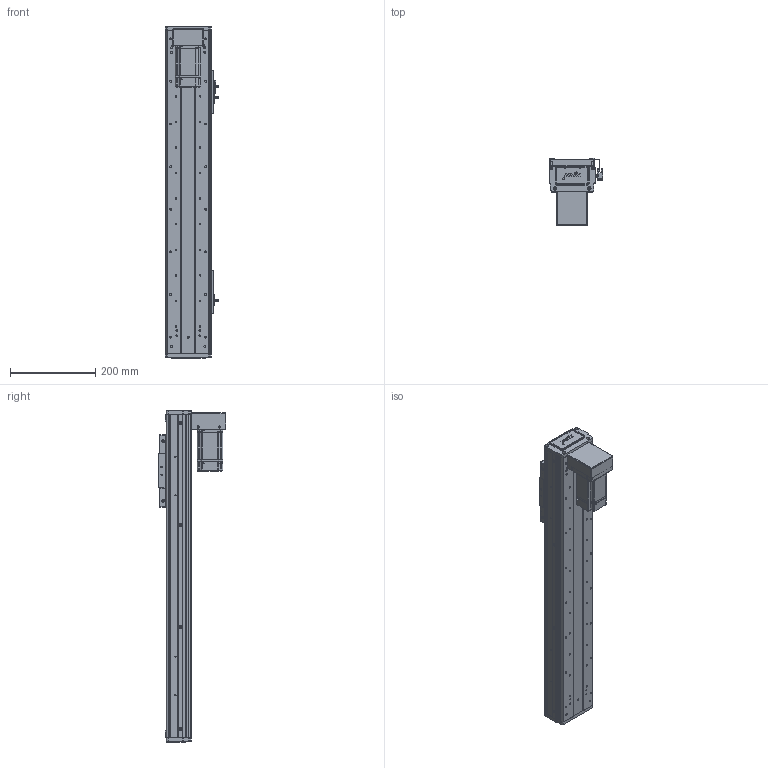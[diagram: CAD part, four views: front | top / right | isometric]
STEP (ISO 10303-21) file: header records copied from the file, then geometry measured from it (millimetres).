
FILE_DESCRIPTION (( 'STEP AP203' ), '1' );
FILE_NAME ('RY100FS-L1620-300-BK(15双轨).SLDASM_500.step', '2021-03-02T07:33:39', ( '盈信电脑' ), ( '东莞市道滘镇水果街19号' ), 'SwSTEP 2.0', 'SolidWorks 2012', '' );
FILE_SCHEMA (( 'CONFIG_CONTROL_DESIGN' ));
Length unit declared in the file: millimetre
Products named in the file (21): RY100FS-15双轨下折钢带安装板; RY100FS-L1620-300-BK(15邧寢).SLDASM_500; 滅袉蝶18-15; 1; 蚥薯蝶紫輸; RY100FS-15邧寢狟殏萇儂欶; RY100FS-双轨螺母座(16丝杆）; RY100FS-15邧寢狟殏萇儂啣; 672嫖萇羲壽假蚾釱; 覜茼ん672; RY100F-詩湍揤踡輸; RY80俋离覜茼え; RY100F-詩湍幗謫粣; RY100F-詩湍揤踡謫; RY100F-綴裔啣; RY100FS-双轨铝滑块(上板）; RY100FS-300-BK15邧寢祥凄詩湍_500; RY100F-滅鳥裔啣; 棠沺沭; RY100FS-300-BK15絳寢倰第奻裔啣_500; RY100FS-300-BK15絳寢倰第菁釱_500
Assembly tree (30 placements, depth 2):
  RY100FS-L1620-300-BK(15邧寢).SLDASM_500
    RY100FS-300-BK15絳寢倰第菁釱_500
    RY100FS-300-BK15絳寢倰第奻裔啣_500  x2
    RY100FS-300-BK15邧寢祥凄詩湍_500
    RY100FS-双轨铝滑块(上板）
    RY100F-滅鳥裔啣
    棠沺沭  x2
    RY100F-詩湍幗謫粣
    RY100F-詩湍揤踡謫  x2
    RY100F-綴裔啣  x2
    672嫖萇羲壽假蚾釱  x2
    RY80俋离覜茼え  x2
    覜茼ん672  x3
    RY100F-詩湍揤踡輸  x2
    RY100FS-双轨螺母座(16丝杆）
    RY100FS-15邧寢狟殏萇儂啣
    RY100FS-15邧寢狟殏萇儂欶
    蚥薯蝶紫輸
    RY100FS-15双轨下折钢带安装板
    滅袉蝶18-15  x2
    1
Bounding box: 126.2 x 158.5 x 779 mm (x, y, z)
Volume: 2071513.6 mm3; surface area: 850965.6 mm2
Topology: 30 solids, 30 shells, 2242 faces, 6105 edges, 3972 vertices
Faces by surface type: plane 1092, cylinder 982, cone 132, bspline 36
Entity records: 60628 total; most frequent: CARTESIAN_POINT 12673, DIRECTION 9498, ORIENTED_EDGE 9450, EDGE_CURVE 4725, AXIS2_PLACEMENT_3D 3329, VERTEX_POINT 3110, LINE 2840, VECTOR 2840
